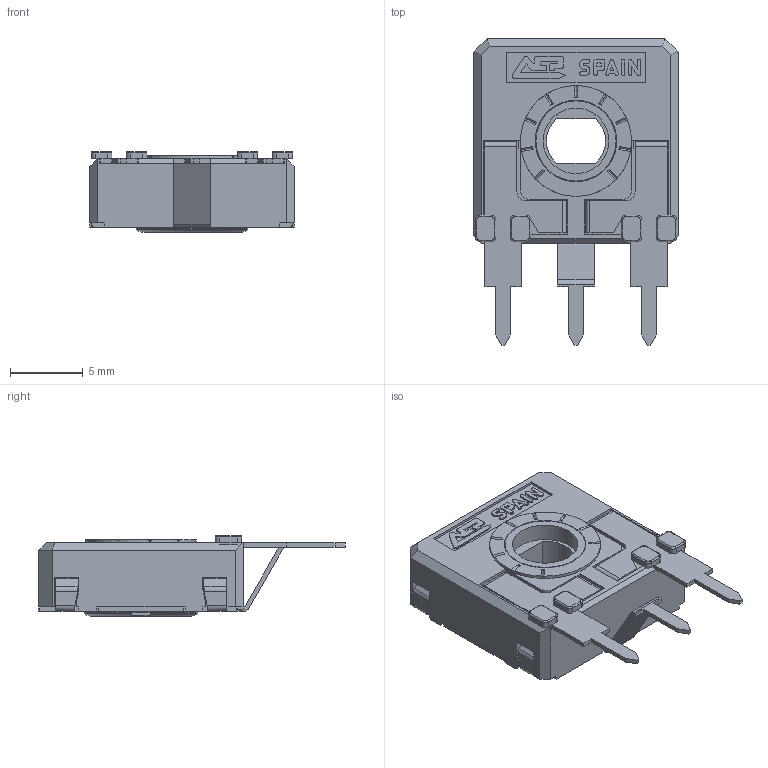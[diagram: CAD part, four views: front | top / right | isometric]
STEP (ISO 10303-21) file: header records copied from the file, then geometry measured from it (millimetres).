
FILE_DESCRIPTION(/* description */ (''),/* implementation_level */ '2;1');
FILE_NAME(/* name */ 'C:\Users\CEM\Desktop\ENVIAR\TRANSICION 3D CATALOGOS\RS14NH0.stp',/* time_stamp */ '2025-12-10T11:22:19+01:00',/* author */ ('CEM'),/* organization */ (''),/* preprocessor_version */ 'ST-DEVELOPER v16.13',/* originating_system */ 'Autodesk Inventor 2018',/* authorisation */ '');
FILE_SCHEMA (('AUTOMOTIVE_DESIGN { 1 0 10303 214 3 1 1 }'));
Length unit declared in the file: millimetre
Products named in the file (1): CARCASA CA14 PGA
Bounding box: 14 x 21 x 5.55 mm (x, y, z)
Volume: 523.2 mm3; surface area: 1447.9 mm2
Topology: 1 solids, 1 shells, 660 faces, 1854 edges, 1191 vertices
Faces by surface type: plane 488, cylinder 135, torus 23, bspline 8, cone 6
Full cylindrical faces by diameter (mm): 4.5 x1, 5.5 x1, 5.6 x1, 5.752 x1, 6.8 x1, 7.6 x1
Entity records: 21328 total; most frequent: CARTESIAN_POINT 3898, ORIENTED_EDGE 3678, DIRECTION 3471, EDGE_CURVE 1839, LINE 1457, VECTOR 1457, VERTEX_POINT 1186, AXIS2_PLACEMENT_3D 1007
